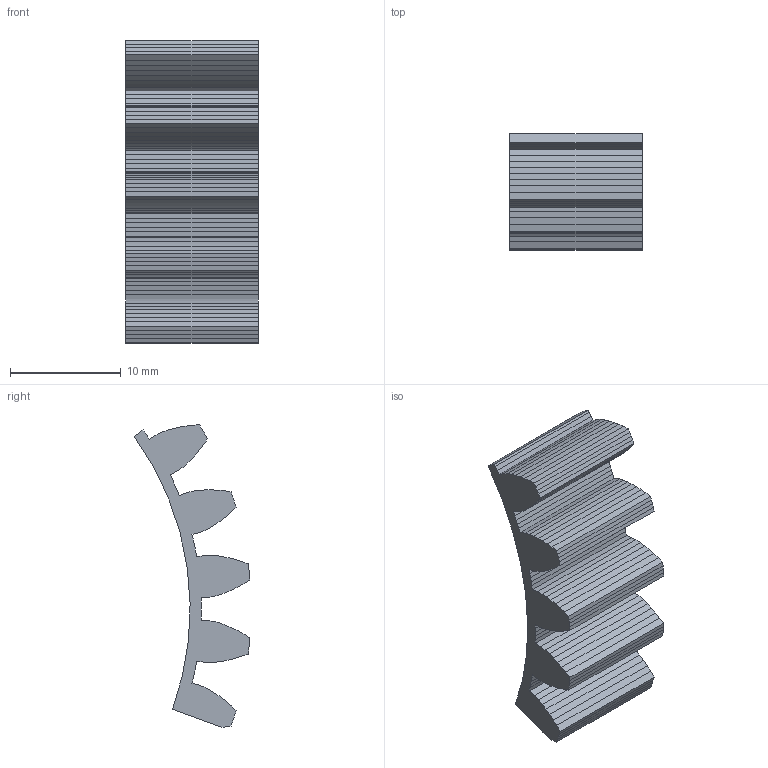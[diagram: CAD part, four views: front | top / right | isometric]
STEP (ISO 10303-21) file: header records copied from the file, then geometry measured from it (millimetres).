
FILE_DESCRIPTION(('Open CASCADE Model'),'2;1');
FILE_NAME('Open CASCADE Shape Model','2026-10-16T05:25:09',('Author'),( 'Open CASCADE'),'Open CASCADE STEP processor 7.9','Open CASCADE 7.9' ,'Unknown');
FILE_SCHEMA(('AUTOMOTIVE_DESIGN { 1 0 10303 214 1 1 1 1 }'));
Length unit declared in the file: millimetre
Products named in the file (1): Open CASCADE STEP translator 7.9 30
Bounding box: 12 x 10.45 x 27.32 mm (x, y, z)
Volume: 1113.6 mm3; surface area: 1288.9 mm2
Topology: 1 solids, 1 shells, 122 faces, 360 edges, 240 vertices
Faces by surface type: plane 121, cylinder 1
Entity records: 8663 total; most frequent: CARTESIAN_POINT 1465, DIRECTION 1311, LINE 1060, VECTOR 1060, ORIENTED_EDGE 720, PCURVE 720, DEFINITIONAL_REPRESENTATION 720, EDGE_CURVE 360
